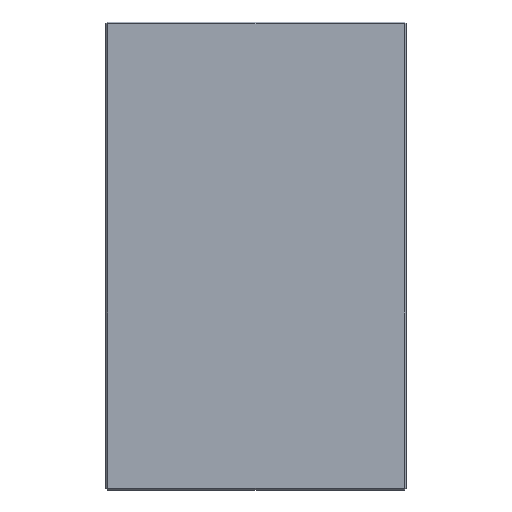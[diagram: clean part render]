
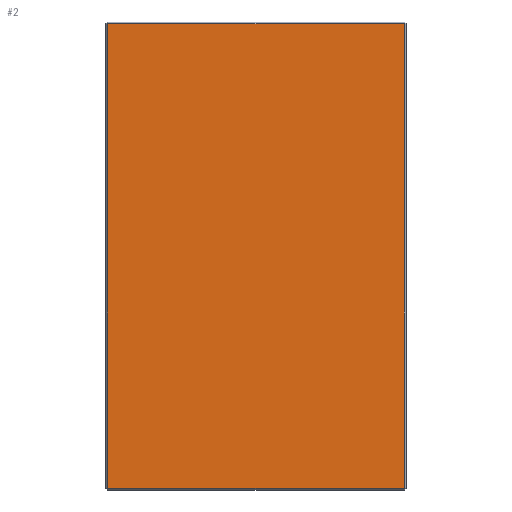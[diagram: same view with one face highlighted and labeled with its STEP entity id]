
A CAD part, top view. The second image highlights one B-rep face of the part: STEP entity #2.
In plain terms, the highlighted planar face has unit normal (0, 0, 1).
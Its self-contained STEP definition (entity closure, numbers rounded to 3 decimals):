
#2 = ADVANCED_FACE ( 'NONE', ( #111 ), #465, .T. ) ;
#27 = CARTESIAN_POINT ( 'NONE',  ( 78., 123., 12. ) ) ;
#47 = ORIENTED_EDGE ( 'NONE', *, *, #271, .T. ) ;
#76 = EDGE_LOOP ( 'NONE', ( #604, #47, #522, #393 ) ) ;
#94 = EDGE_CURVE ( 'NONE', #595, #551, #580, .T. ) ;
#98 = CARTESIAN_POINT ( 'NONE',  ( -79., 122., 12. ) ) ;
#111 = FACE_OUTER_BOUND ( 'NONE', #76, .T. ) ;
#124 = DIRECTION ( 'NONE',  ( 1., 0., 0. ) ) ;
#189 = VECTOR ( 'NONE', #589, 1000. ) ;
#211 = CARTESIAN_POINT ( 'NONE',  ( -78., -122., 12. ) ) ;
#236 = VERTEX_POINT ( 'NONE', #273 ) ;
#262 = CARTESIAN_POINT ( 'NONE',  ( -78., -123., 12. ) ) ;
#266 = LINE ( 'NONE', #27, #555 ) ;
#271 = EDGE_CURVE ( 'NONE', #487, #236, #456, .T. ) ;
#273 = CARTESIAN_POINT ( 'NONE',  ( -78., 122., 12. ) ) ;
#284 = DIRECTION ( 'NONE',  ( 0., 0., 1. ) ) ;
#316 = AXIS2_PLACEMENT_3D ( 'NONE', #583, #284, #526 ) ;
#347 = VECTOR ( 'NONE', #124, 1000. ) ;
#351 = VECTOR ( 'NONE', #460, 1000. ) ;
#391 = LINE ( 'NONE', #262, #351 ) ;
#393 = ORIENTED_EDGE ( 'NONE', *, *, #94, .T. ) ;
#394 = EDGE_CURVE ( 'NONE', #236, #595, #391, .T. ) ;
#435 = EDGE_CURVE ( 'NONE', #551, #487, #266, .T. ) ;
#456 = LINE ( 'NONE', #98, #189 ) ;
#460 = DIRECTION ( 'NONE',  ( 0., -1., 0. ) ) ;
#463 = DIRECTION ( 'NONE',  ( 0., 1., 0. ) ) ;
#465 = PLANE ( 'NONE',  #316 ) ;
#473 = CARTESIAN_POINT ( 'NONE',  ( 78., 122., 12. ) ) ;
#487 = VERTEX_POINT ( 'NONE', #473 ) ;
#522 = ORIENTED_EDGE ( 'NONE', *, *, #394, .T. ) ;
#526 = DIRECTION ( 'NONE',  ( 1., 0., 0. ) ) ;
#551 = VERTEX_POINT ( 'NONE', #568 ) ;
#555 = VECTOR ( 'NONE', #463, 1000. ) ;
#568 = CARTESIAN_POINT ( 'NONE',  ( 78., -122., 12. ) ) ;
#580 = LINE ( 'NONE', #633, #347 ) ;
#583 = CARTESIAN_POINT ( 'NONE',  ( 0., 0., 12. ) ) ;
#589 = DIRECTION ( 'NONE',  ( -1., 0., 0. ) ) ;
#595 = VERTEX_POINT ( 'NONE', #211 ) ;
#604 = ORIENTED_EDGE ( 'NONE', *, *, #435, .T. ) ;
#633 = CARTESIAN_POINT ( 'NONE',  ( 79., -122., 12. ) ) ;
